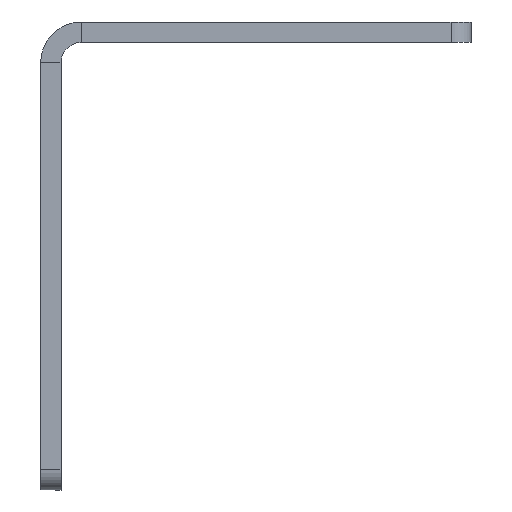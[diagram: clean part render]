
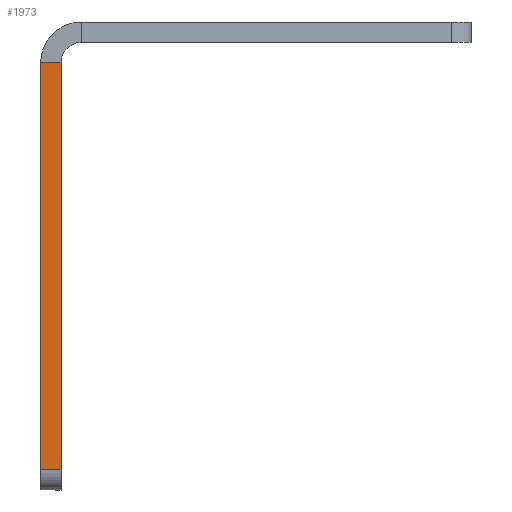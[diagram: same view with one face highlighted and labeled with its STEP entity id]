
A CAD part, front view. The second image highlights one B-rep face of the part: STEP entity #1973.
In plain terms, the highlighted planar face has unit normal (0, -1, 0).
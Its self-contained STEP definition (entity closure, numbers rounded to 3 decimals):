
#1020 = CARTESIAN_POINT ( 'NONE',  ( -36., -35., -63. ) ) ;
#1021 = DIRECTION ( 'NONE',  ( 1., 0., 0. ) ) ;
#1022 = VECTOR ( 'NONE', #1021, 1000. ) ;
#1023 = CARTESIAN_POINT ( 'NONE',  ( -33., -35., -63. ) ) ;
#1024 = LINE ( 'NONE', #1023, #1022 ) ;
#1037 = DIRECTION ( 'NONE',  ( 0., 0., 1. ) ) ;
#1038 = VECTOR ( 'NONE', #1037, 1000. ) ;
#1040 = CARTESIAN_POINT ( 'NONE',  ( -33., -35., 0. ) ) ;
#1041 = LINE ( 'NONE', #1040, #1038 ) ;
#1042 = CARTESIAN_POINT ( 'NONE',  ( -33., -35., -63. ) ) ;
#1079 = DIRECTION ( 'NONE',  ( 0., 0., 1. ) ) ;
#1080 = DIRECTION ( 'NONE',  ( 0., 1., 0. ) ) ;
#1081 = CARTESIAN_POINT ( 'NONE',  ( -36., -35., 0. ) ) ;
#1083 = AXIS2_PLACEMENT_3D ( 'NONE', #1081, #1080, #1079 ) ;
#1084 = PLANE ( 'NONE',  #1083 ) ;
#1085 = FACE_OUTER_BOUND ( 'NONE', #1965, .T. ) ;
#1091 = DIRECTION ( 'NONE',  ( 0., 0., 1. ) ) ;
#1092 = VECTOR ( 'NONE', #1091, 1000. ) ;
#1093 = CARTESIAN_POINT ( 'NONE',  ( -36., -35., 0. ) ) ;
#1094 = LINE ( 'NONE', #1093, #1092 ) ;
#1722 = DIRECTION ( 'NONE',  ( -1., 0., 0. ) ) ;
#1723 = VECTOR ( 'NONE', #1722, 1000. ) ;
#1724 = CARTESIAN_POINT ( 'NONE',  ( -36., -35., -3. ) ) ;
#1725 = LINE ( 'NONE', #1724, #1723 ) ;
#1726 = CARTESIAN_POINT ( 'NONE',  ( -36., -35., -3. ) ) ;
#1783 = CARTESIAN_POINT ( 'NONE',  ( -33., -35., -3. ) ) ;
#1820 = ORIENTED_EDGE ( 'NONE', *, *, #2473, .T. ) ;
#1902 = ORIENTED_EDGE ( 'NONE', *, *, #1951, .T. ) ;
#1932 = VERTEX_POINT ( 'NONE', #1042 ) ;
#1951 = EDGE_CURVE ( 'NONE', #1932, #2474, #1041, .T. ) ;
#1963 = EDGE_CURVE ( 'NONE', #1967, #1932, #1024, .T. ) ;
#1964 = ORIENTED_EDGE ( 'NONE', *, *, #1963, .T. ) ;
#1965 = EDGE_LOOP ( 'NONE', ( #1966, #1964, #1902, #1820 ) ) ;
#1966 = ORIENTED_EDGE ( 'NONE', *, *, #1968, .F. ) ;
#1967 = VERTEX_POINT ( 'NONE', #1020 ) ;
#1968 = EDGE_CURVE ( 'NONE', #1967, #2471, #1094, .T. ) ;
#1973 = ADVANCED_FACE ( 'NONE', ( #1085 ), #1084, .F. ) ;
#2471 = VERTEX_POINT ( 'NONE', #1726 ) ;
#2473 = EDGE_CURVE ( 'NONE', #2474, #2471, #1725, .T. ) ;
#2474 = VERTEX_POINT ( 'NONE', #1783 ) ;
